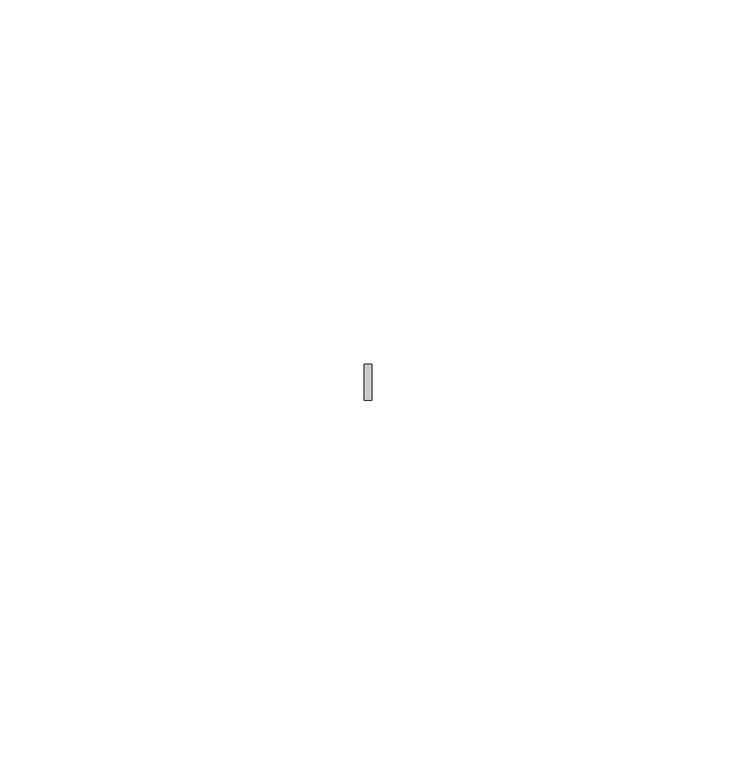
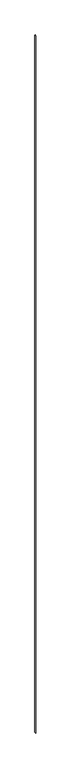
"""IFC4 building model written with IfcOpenShell, lengths in millimetres: member geometry, Прямоугольный импост : 1-AMG-1-Профиль (скотч 3М) 1 средний."""

import ifcopenshell
import ifcopenshell.guid

model = None  # the IFC model being written
_history = None  # IfcOwnerHistory: only IFC2X3 demands one
_inside = {}  # id of a spatial element -> (the spatial element, [elements in it])
_under = {}  # id of a project, library or spatial element -> (it, [spatial elements below it])
_declared = {}  # id of a project -> (the project, [libraries it declares])
_typed = {}  # id of a type object -> (the type object, [elements of that type])
_made_of = {}  # id of a material, layer set ... -> (it, [elements and type objects made of it])


def new_model(schema):
    """Start an empty IFC model of exactly this schema.

    Asked for "IFC4X3", IfcOpenShell would pick the latest addendum, in which some entities
    have other attributes; the version numbers below select the first issue.
    IFC2X3 requires an IfcOwnerHistory on every rooted entity: one is made here for all.
    """
    global model, _history
    if schema == "IFC4X3":
        model = ifcopenshell.file(schema_version=(4, 3, 0, 0))
    else:
        model = ifcopenshell.file(schema=schema)
    _inside.clear()
    _under.clear()
    _declared.clear()
    _typed.clear()
    _made_of.clear()
    _history = None
    if model.schema == "IFC2X3":
        org = make("IfcOrganization", Name="unknown")
        user = make(
            "IfcPersonAndOrganization",
            ThePerson=make("IfcPerson", FamilyName="unknown"),
            TheOrganization=org,
        )
        app = make(
            "IfcApplication",
            ApplicationDeveloper=org,
            Version="unknown",
            ApplicationFullName="unknown",
            ApplicationIdentifier="unknown",
        )
        _history = make(
            "IfcOwnerHistory",
            OwningUser=user,
            OwningApplication=app,
            ChangeAction="ADDED",
            CreationDate=0,
        )
    return model


def make(cls, **values):
    """One entity of the class cls with the attributes given. An attribute that is None is left unset."""
    return model.create_entity(
        cls, **{name: value for name, value in values.items() if value is not None}
    )


def rooted(cls, **values):
    """An entity with a GlobalId (a new one), such as an element, a storey or a relation."""
    return make(cls, GlobalId=ifcopenshell.guid.new(), OwnerHistory=_history, **values)


def si_unit(unit_type, name, prefix=None):
    """IfcSIUnit, for example si_unit("LENGTHUNIT", "METRE", prefix="MILLI")."""
    return make("IfcSIUnit", UnitType=unit_type, Prefix=prefix, Name=name)


def assignment(units):
    """IfcUnitAssignment: the units of a project."""
    return None if units is None else make("IfcUnitAssignment", Units=units)


def point(xyz):
    """IfcCartesianPoint."""
    return None if xyz is None else make("IfcCartesianPoint", Coordinates=xyz)


def direction(xyz):
    """IfcDirection."""
    return None if xyz is None else make("IfcDirection", DirectionRatios=xyz)


def frame(location, z_axis=None, x_axis=None):
    """IfcAxis2Placement3D, a coordinate frame: its origin and axes. An axis left out is left unset."""
    return make(
        "IfcAxis2Placement3D",
        Location=point(location),
        Axis=direction(z_axis),
        RefDirection=direction(x_axis),
    )


def origin():
    """The frame at (0, 0, 0) with its axes left unset."""
    return frame((0.0, 0.0, 0.0))


def place(relative_to, where):
    """IfcLocalPlacement: puts the frame where relative to a parent placement (None: the world)."""
    return make(
        "IfcLocalPlacement", PlacementRelTo=relative_to, RelativePlacement=where
    )


def context(
    kind, dimensions, precision=None, world=None, true_north=None, identifier=None
):
    """IfcGeometricRepresentationContext, for example the 3D "Model" context."""
    return make(
        "IfcGeometricRepresentationContext",
        ContextIdentifier=identifier,
        ContextType=kind,
        CoordinateSpaceDimension=dimensions,
        Precision=precision,
        WorldCoordinateSystem=world,
        TrueNorth=true_north,
    )


def project(units=None, contexts=None):
    """IfcProject with its units and contexts."""
    return rooted(
        "IfcProject",
        Name="project",
        RepresentationContexts=contexts,
        UnitsInContext=assignment(units),
    )


def spatial(cls, under=None, at=None, **own):
    """A site, building, storey or space (cls), placed at a placement, below another one or the project."""
    s = rooted(cls, ObjectPlacement=at, **own)
    if under is not None:
        _under.setdefault(under.id(), (under, []))[1].append(s)
    return s


def polyline(points):
    """IfcPolyline through the points."""
    return make("IfcPolyline", Points=[point(p) for p in points])


def outline(outer, holes=None, kind="AREA"):
    """IfcArbitraryClosedProfileDef: a profile drawn as a closed curve; with holes, ...WithVoids."""
    if holes is None:
        return make("IfcArbitraryClosedProfileDef", ProfileType=kind, OuterCurve=outer)
    return make(
        "IfcArbitraryProfileDefWithVoids",
        ProfileType=kind,
        OuterCurve=outer,
        InnerCurves=holes,
    )


def extrude(swept, where, along, depth):
    """IfcExtrudedAreaSolid: the profile swept, set in the frame where, extruded along a direction by depth."""
    return make(
        "IfcExtrudedAreaSolid",
        SweptArea=swept,
        Position=where,
        ExtrudedDirection=direction(along),
        Depth=depth,
    )


def shape(context_of_items, identifier, shape_type, items):
    """IfcShapeRepresentation: the items that make up one representation, for example the "Body"."""
    return make(
        "IfcShapeRepresentation",
        ContextOfItems=context_of_items,
        RepresentationIdentifier=identifier,
        RepresentationType=shape_type,
        Items=items,
    )


def source(mapping_origin, context_of_items, identifier, shape_type, items):
    """IfcRepresentationMap: a shape defined once, which mapped items show again and again."""
    return make(
        "IfcRepresentationMap",
        MappingOrigin=mapping_origin,
        MappedRepresentation=shape(context_of_items, identifier, shape_type, items),
    )


def transform(
    local_origin,
    x_axis=None,
    y_axis=None,
    z_axis=None,
    scale=None,
    scale2=None,
    scale3=None,
    uniform=True,
):
    """IfcCartesianTransformationOperator3D, or its non-uniform kind. x_axis, y_axis, z_axis: its Axis1, 2, 3."""
    if uniform:
        return make(
            "IfcCartesianTransformationOperator3D",
            Axis1=direction(x_axis),
            Axis2=direction(y_axis),
            LocalOrigin=point(local_origin),
            Scale=scale,
            Axis3=direction(z_axis),
        )
    return make(
        "IfcCartesianTransformationOperator3DnonUniform",
        Axis1=direction(x_axis),
        Axis2=direction(y_axis),
        LocalOrigin=point(local_origin),
        Scale=scale,
        Axis3=direction(z_axis),
        Scale2=scale2,
        Scale3=scale3,
    )


def mapped(mapping_source, mapping_target):
    """IfcMappedItem: shows the shape of a source again, moved by a transform."""
    return make(
        "IfcMappedItem", MappingSource=mapping_source, MappingTarget=mapping_target
    )


def made_of(thing, what):
    """Note that an element or type object is made of a material, layer set ...; save() writes the relation."""
    if what is not None:
        _made_of.setdefault(what.id(), (what, []))[1].append(thing)
    return thing


def element(
    cls,
    number,
    at=None,
    inside=None,
    cuts=None,
    type_object=None,
    material=None,
    context=None,
    identifier="Body",
    shape_type=None,
    held_by="IfcProductDefinitionShape",
    body=None,
    shapes=None,
    **own,
):
    """One element of the class cls, such as IfcWall. Its Tag is "e" and its number.

    at: its placement. inside: the storey or other place that contains it. cuts: it is an
    opening in that element (IfcRelVoidsElement). A single representation is given by context,
    identifier, shape_type and body (its items); several are given by shapes. held_by: the class
    of the entity that holds the representations. save() writes the other relations.
    """
    e = rooted(cls, Tag="e%d" % number, ObjectPlacement=at, **own)
    if body is not None:
        shapes = [shape(context, identifier, shape_type, body)]
    if shapes is not None:
        e.Representation = make(held_by, Representations=shapes)
    if inside is not None:
        _inside.setdefault(inside.id(), (inside, []))[1].append(e)
    if cuts is not None:
        rooted(
            "IfcRelVoidsElement", RelatingBuildingElement=cuts, RelatedOpeningElement=e
        )
    if type_object is not None:
        _typed.setdefault(type_object.id(), (type_object, []))[1].append(e)
    return made_of(e, material)


def aggregate(whole, parts):
    """IfcRelAggregates: a whole, such as a stair, and the parts it consists of."""
    return rooted("IfcRelAggregates", RelatingObject=whole, RelatedObjects=parts)


def save(model, path):
    """Write the relations noted so far, then the file.

    IfcRelAggregates (storeys below a building ...), IfcRelContainedInSpatialStructure (elements
    in a storey), IfcRelDefinesByType, IfcRelAssociatesMaterial and IfcRelDeclares: one each for
    every whole, place, type object, material and project.
    """
    for whole, parts in _under.values():
        aggregate(whole, parts)
    for where, things in _inside.values():
        rooted(
            "IfcRelContainedInSpatialStructure",
            RelatedElements=things,
            RelatingStructure=where,
        )
    for kind, things in _typed.values():
        rooted("IfcRelDefinesByType", RelatedObjects=things, RelatingType=kind)
    for what, things in _made_of.values():
        rooted("IfcRelAssociatesMaterial", RelatedObjects=things, RelatingMaterial=what)
    for by, libraries in _declared.values():
        rooted("IfcRelDeclares", RelatingContext=by, RelatedDefinitions=libraries)
    model.write(path)


def member_41f37cbb(model_context):
    return source(origin(), model_context, "Body", "SweptSolid", [
        extrude(outline(polyline([(0.5087396, 34.5), (0.5087396, 29.5), (-0.5292752, 29.5), (-0.5292752, 34.5), (0.5087396, 34.5)])), frame((0.0, 0.0, -2746.0), z_axis=(0.0, 0.0, 1.0), x_axis=(1.0, 0.0, 0.0)), (0.0, 0.0, 1.0), 2746.0),
    ])


if __name__ == "__main__":
    model = new_model("IFC4")
    model_context = context("Model", 3, world=origin())
    ifc_project = project(units=[si_unit("LENGTHUNIT", "METRE", prefix="MILLI")], contexts=[model_context])
    site = spatial("IfcSite", under=ifc_project)
    building = spatial("IfcBuilding", under=site)
    placement = place(None, origin())
    member_shape = member_41f37cbb(model_context)
    element("IfcMember", 1, ObjectType="Прямоугольный импост : 1-AMG-1-Профиль (скотч 3М) 1 средний", at=placement, inside=building, context=model_context, shape_type="MappedRepresentation", body=[
        mapped(member_shape, transform((0.0, 0.0, 0.0), x_axis=(1.0, 0.0, 0.0), y_axis=(0.0, 1.0, 0.0), z_axis=(0.0, 0.0, 1.0))),
    ])
    save(model, "model.ifc")
